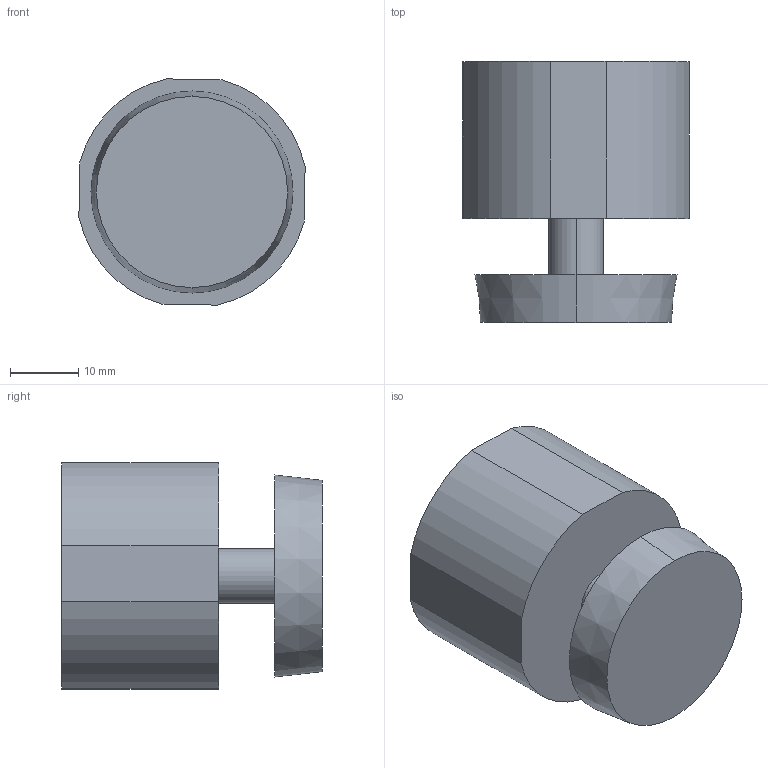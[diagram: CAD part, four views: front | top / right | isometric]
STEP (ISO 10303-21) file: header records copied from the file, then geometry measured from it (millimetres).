
FILE_DESCRIPTION (( 'STEP AP214' ), '1' );
FILE_NAME ('JB-401.step', '2024-02-15T05:11:06', ( 'catia' ), ( 'HP Inc.' ), 'SwSTEP 2.0', 'SolidWorks 2021', '' );
FILE_SCHEMA (( 'AUTOMOTIVE_DESIGN' ));
Length unit declared in the file: millimetre
Products named in the file (3): JB-401; JB-401_2
Assembly tree (2 placements, depth 2):
  JB-401
    JB-401_2
    JB-401
Bounding box: 33.15 x 38.22 x 33.15 mm (x, y, z)
Volume: 18192.2 mm3; surface area: 8232.9 mm2
Topology: 2 solids, 2 shells, 22 faces, 48 edges, 32 vertices
Faces by surface type: cylinder 10, plane 10, cone 2
Entity records: 730 total; most frequent: DIRECTION 126, CARTESIAN_POINT 107, ORIENTED_EDGE 96, AXIS2_PLACEMENT_3D 51, EDGE_CURVE 48, VERTEX_POINT 32, EDGE_LOOP 26, LINE 24
